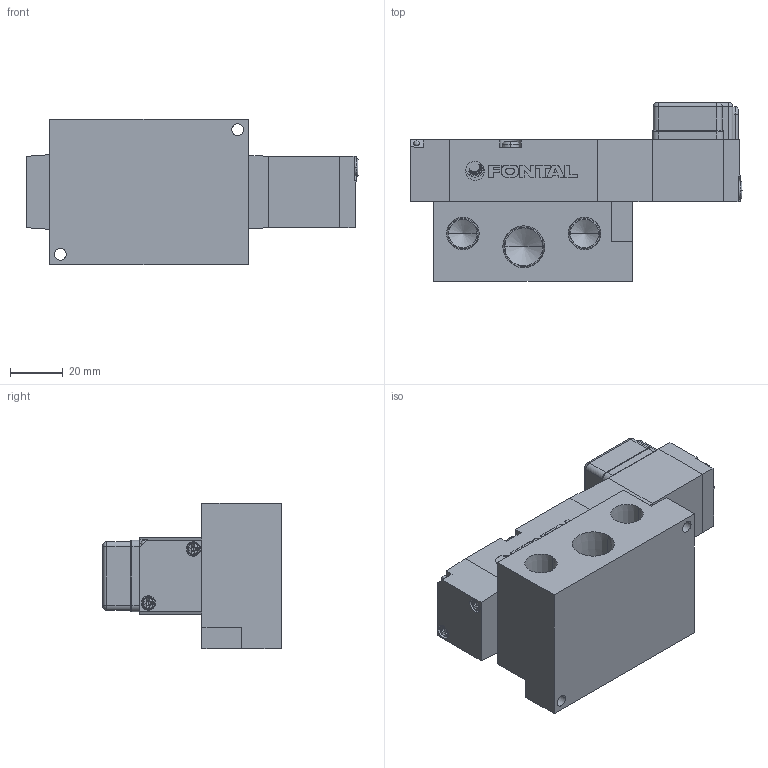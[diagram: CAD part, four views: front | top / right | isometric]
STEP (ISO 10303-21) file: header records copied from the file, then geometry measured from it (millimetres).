
FILE_DESCRIPTION (( 'STEP AP203' ), '1' );
FILE_NAME ('PCS2408#-03-#G#.STEP', '2016-02-04T06:04:25', ( 'Sam Lin' ), ( '' ), 'SwSTEP 2.0', 'SolidWorks 2013', '' );
FILE_SCHEMA (( 'CONFIG_CONTROL_DESIGN' ));
Length unit declared in the file: metre
Products named in the file (13): PCS2406-9; PC08-1; PC6-M3; PC08-2; PC08-4; PC08-3; PC08-MARK; PCS2406-3-小圓珠; PCS2408#-03-#G#; PCS2406-7; PCS2406-3; PC6-M4; PCS2406-8
Assembly tree (18 placements, depth 2):
  PCS2408#-03-#G#
    PC08-1
    PC08-2
    PC08-3
    PCS2406-3-小圓珠  x2
    PCS2406-7
    PCS2406-3
    PC6-M4  x3
    PCS2406-8
    PCS2406-9
    PC6-M3  x4
    PC08-4
    PC08-MARK
Bounding box: 125.5 x 67.5 x 55 mm (x, y, z)
Volume: 200714.8 mm3; surface area: 45482.5 mm2
Topology: 24 solids, 24 shells, 537 faces, 1315 edges, 814 vertices
Faces by surface type: plane 288, cylinder 96, cone 81, bspline 68, torus 4
Entity records: 12840 total; most frequent: CARTESIAN_POINT 2897, DIRECTION 1741, ORIENTED_EDGE 1730, EDGE_CURVE 865, AXIS2_PLACEMENT_3D 609, VERTEX_POINT 557, VECTOR 523, LINE 523
